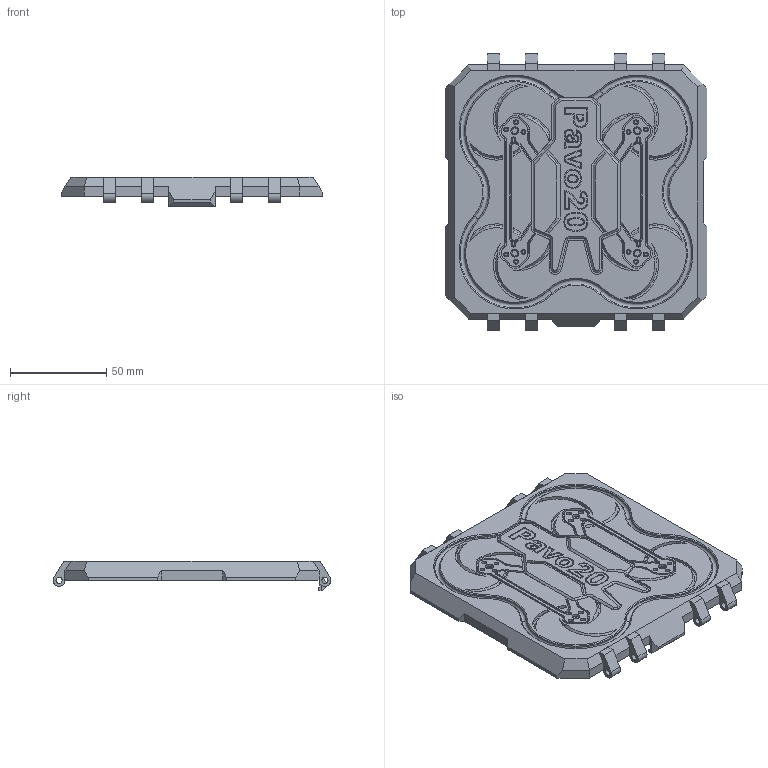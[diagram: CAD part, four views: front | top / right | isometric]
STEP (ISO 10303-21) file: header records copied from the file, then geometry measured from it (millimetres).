
FILE_DESCRIPTION(/* description */ (''),/* implementation_level */ '2;1');
FILE_NAME(/* name */ 'Pavo20CaseCap.step',/* time_stamp */ '2024-05-03T23:09:27+08:00',/* author */ (''),/* organization */ (''),/* preprocessor_version */ 'ST-DEVELOPER v20',/* originating_system */ 'Autodesk Translation Framework v12.20.1.177',/* authorisation */ '');
FILE_SCHEMA (('AUTOMOTIVE_DESIGN { 1 0 10303 214 3 1 1 }'));
Length unit declared in the file: millimetre
Products named in the file (1): Pavo20CaseCap
Bounding box: 136 x 144.4 x 15.49 mm (x, y, z)
Volume: 71782.2 mm3; surface area: 49471 mm2
Topology: 9 solids, 9 shells, 925 faces, 2336 edges, 1482 vertices
Faces by surface type: plane 372, cylinder 240, bspline 192, torus 69, cone 52
Full cylindrical faces by diameter (mm): 2.5 x12, 3.2 x8, 4 x4
Entity records: 28817 total; most frequent: CARTESIAN_POINT 7478, ORIENTED_EDGE 4672, DIRECTION 4004, EDGE_CURVE 2336, VERTEX_POINT 1482, AXIS2_PLACEMENT_3D 1370, LINE 1264, VECTOR 1264
